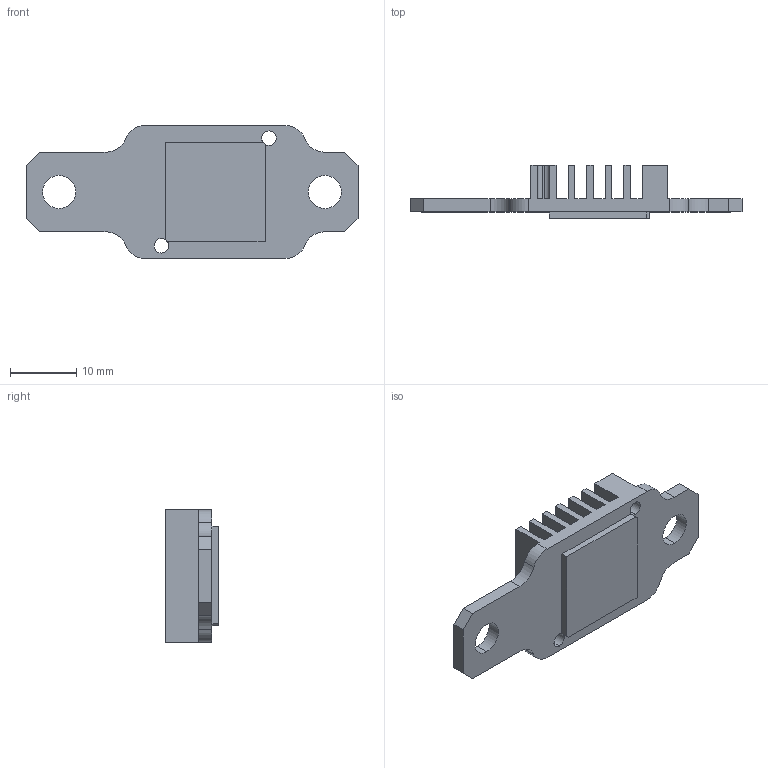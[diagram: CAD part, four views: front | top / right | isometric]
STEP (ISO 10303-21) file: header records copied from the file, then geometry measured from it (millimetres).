
FILE_DESCRIPTION (( 'STEP AP214' ), '1' );
FILE_NAME ('Heatsink, Desk top, Biolink R01.STEP', '2026-07-27T21:15:15', ( '' ), ( '' ), 'SwSTEP 2.0', 'SolidWorks 2025', '' );
FILE_SCHEMA (( 'AUTOMOTIVE_DESIGN' ));
Length unit declared in the file: millimetre
Products named in the file (1): Heatsink, Desk top, Biolink R01
Bounding box: 50 x 8 x 20 mm (x, y, z)
Volume: 2583.1 mm3; surface area: 3624.6 mm2
Topology: 1 solids, 1 shells, 71 faces, 210 edges, 140 vertices
Faces by surface type: plane 51, cylinder 20
Entity records: 2407 total; most frequent: CARTESIAN_POINT 422, ORIENTED_EDGE 420, DIRECTION 398, EDGE_CURVE 210, VECTOR 166, LINE 166, VERTEX_POINT 140, AXIS2_PLACEMENT_3D 116
